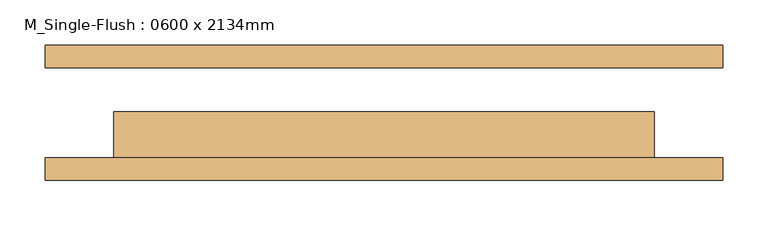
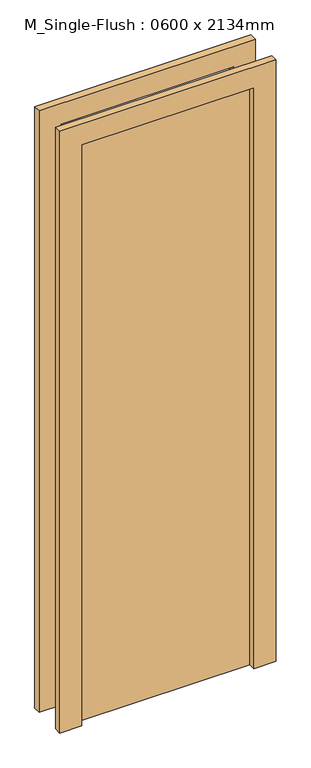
"""IFC4 building model written with IfcOpenShell, lengths in millimetres: door geometry, M_Single-Flush : 0600 x 2134mm."""

from ifc_helpers import new_model, si_unit, frame, origin, origin_with_axes, place, context, project, spatial, polyline, outline, extrude, source, transform, mapped, element, save


def m_single_flush_0600_x_2134mm_24feac79(model_context):
    return source(origin(), model_context, "Body", "SweptSolid", [
        extrude(outline(polyline([(2210.0, -376.0), (0.0, -376.0), (0.0, -300.0), (2134.0, -300.0), (2134.0, 300.0), (0.0, 300.0), (0.0, 376.0), (2210.0, 376.0), (2210.0, -376.0)])), frame((0.0, -75.0, 0.0), z_axis=(0.0, 1.0, 0.0), x_axis=(0.0, 0.0, 1.0)), (0.0, 0.0, 1.0), 25.0),
        extrude(outline(polyline([(2210.0, 376.0), (2210.0, -376.0), (0.0, -376.0), (0.0, -300.0), (2134.0, -300.0), (2134.0, 300.0), (0.0, 300.0), (0.0, 376.0), (2210.0, 376.0)])), frame((0.0, 50.0, 0.0), z_axis=(0.0, 1.0, 0.0), x_axis=(0.0, 0.0, 1.0)), (0.0, 0.0, 1.0), 25.0),
        extrude(outline(polyline([(300.0, 1.0), (300.0, -50.0), (-300.0, -50.0), (-300.0, 1.0), (300.0, 1.0)])), origin_with_axes(), (0.0, 0.0, 1.0), 2134.0),
    ])


if __name__ == "__main__":
    model = new_model("IFC4")
    model_context = context("Model", 3, world=origin())
    ifc_project = project(units=[si_unit("LENGTHUNIT", "METRE", prefix="MILLI")], contexts=[model_context])
    site = spatial("IfcSite", under=ifc_project)
    building = spatial("IfcBuilding", under=site)
    placement = place(None, origin())
    m_single_flush_0600_x_2134mm_shape = m_single_flush_0600_x_2134mm_24feac79(model_context)
    element("IfcDoor", 1, ObjectType="M_Single-Flush : 0600 x 2134mm", at=placement, inside=building, context=model_context, shape_type="MappedRepresentation", body=[
        mapped(m_single_flush_0600_x_2134mm_shape, transform((0.0, 0.0, 0.0), x_axis=(1.0, 0.0, 0.0), y_axis=(0.0, 1.0, 0.0), z_axis=(0.0, 0.0, 1.0))),
    ])
    save(model, "model.ifc")
